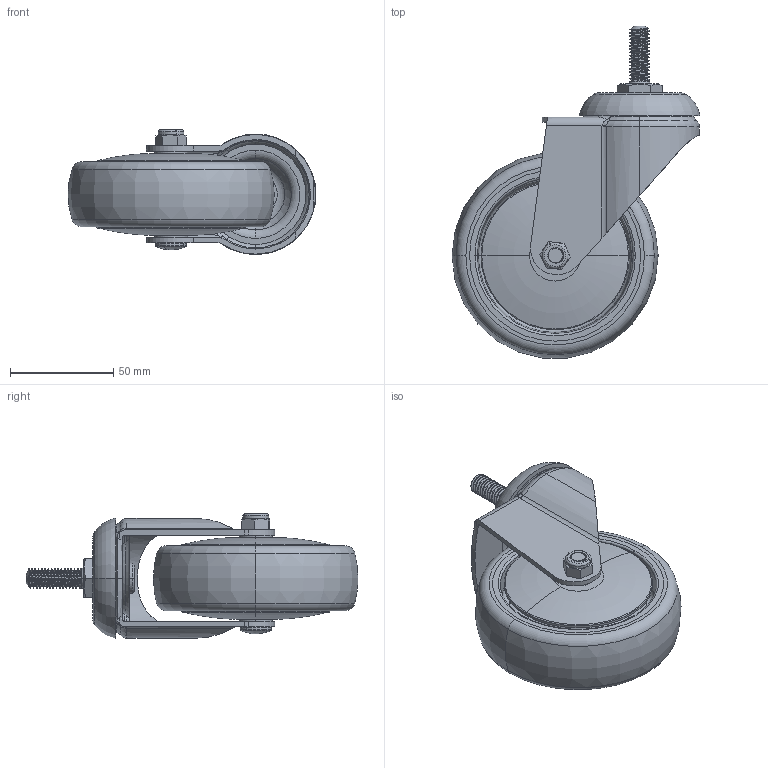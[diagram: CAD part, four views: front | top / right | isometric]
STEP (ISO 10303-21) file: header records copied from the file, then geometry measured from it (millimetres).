
FILE_DESCRIPTION (( 'STEP AP203' ), '1' );
FILE_NAME ('4111604002064-儀器白鐵活動全效輪.STEP', '2025-11-19T05:12:12', ( '' ), ( '' ), 'SwSTEP 2.0', 'SolidWorks 2019', '' );
FILE_SCHEMA (( 'CONFIG_CONTROL_DESIGN' ));
Length unit declared in the file: metre
Products named in the file (1): 4111604002064-儀器白鐵活動全效輪
Bounding box: 120.25 x 161.06 x 60.75 mm (x, y, z)
Surface area: 70898.8 mm2 (no closed solid volume)
Topology: 0 solids, 17 shells, 253 faces, 665 edges, 428 vertices
Faces by surface type: cylinder 79, torus 73, plane 65, bspline 16, cone 16, sphere 4
Entity records: 12683 total; most frequent: CARTESIAN_POINT 6684, DIRECTION 1257, ORIENTED_EDGE 1187, EDGE_CURVE 663, AXIS2_PLACEMENT_3D 532, VERTEX_POINT 428, CIRCLE 294, EDGE_LOOP 276
